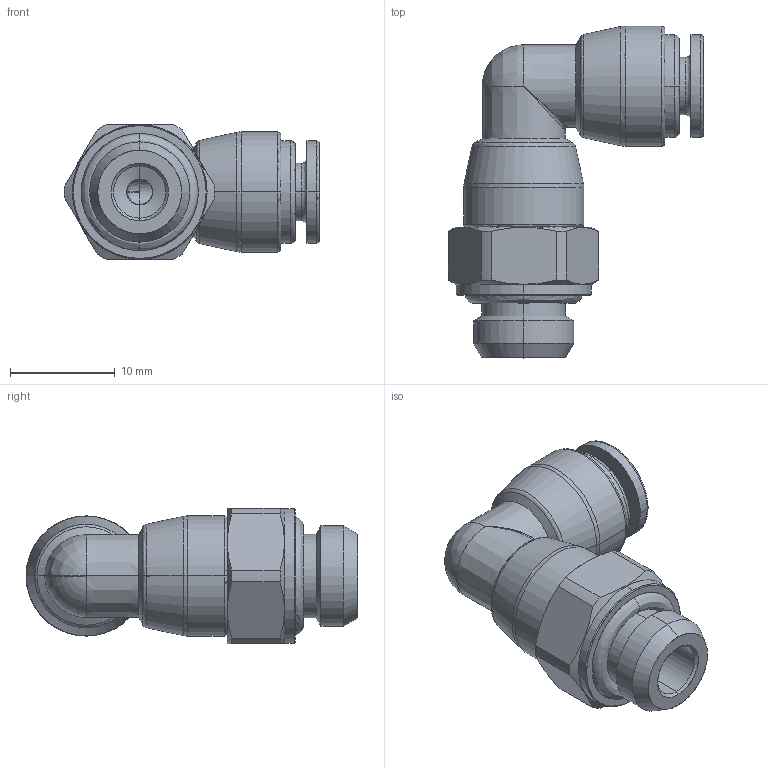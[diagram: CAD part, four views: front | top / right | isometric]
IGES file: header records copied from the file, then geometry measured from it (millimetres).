
Start section: SolidWorks IGES file using analytic representation for surfaces
Global section: file name: K:\Disegni Esecutivi\SERIE 53000\53000 Assiemi\53117X\Iges\53117X0004A.IGS; native system: SolidWorks 2020; preprocessor: SolidWorks 2020; author: cad06; date: 240509.162236; units: millimetre
Bounding box: 24.4 x 31.75 x 13 mm (x, y, z)
Surface area: 2312.2 mm2 (no closed solid volume)
Topology: 0 solids, 0 shells, 145 faces, 1356 edges, 1350 vertices
Faces by surface type: bspline 77, revolution 68
